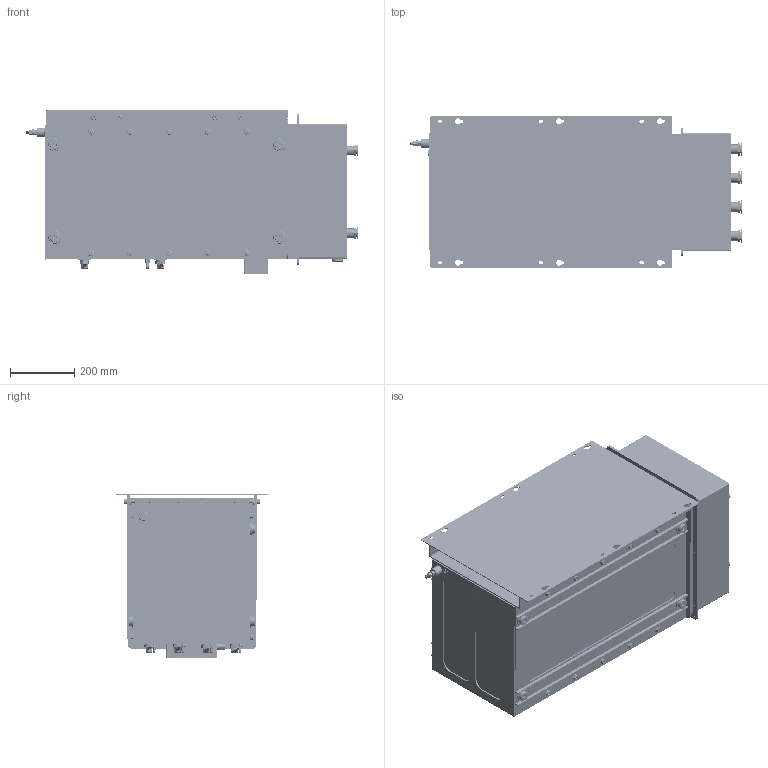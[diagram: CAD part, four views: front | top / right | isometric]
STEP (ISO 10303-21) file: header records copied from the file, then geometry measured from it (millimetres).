
FILE_DESCRIPTION (( 'STEP AP203' ), '1' );
FILE_NAME ('倳昃-4C IP65.STEP', '2024-04-08T14:14:48', ( '' ), ( '' ), 'SwSTEP 2.0', 'SolidWorks 2020', '' );
FILE_SCHEMA (( 'CONFIG_CONTROL_DESIGN' ));
Products named in the file (1): 倳昃-4C IP65
Bounding box: 1036.23 x 474.01 x 512.55 mm (x, y, z)
Volume: 125116498.3 mm3; surface area: 8601369.1 mm2
Topology: 304 solids, 452 shells, 17820 faces, 43806 edges, 27693 vertices
Faces by surface type: cylinder 7973, plane 6890, cone 1130, torus 1090, bspline 697, sphere 40
Entity records: 864218 total; most frequent: CARTESIAN_POINT 463392, ORIENTED_EDGE 86892, DIRECTION 81036, EDGE_CURVE 43446, AXIS2_PLACEMENT_3D 29941, VERTEX_POINT 27693, LINE 21154, VECTOR 21154
